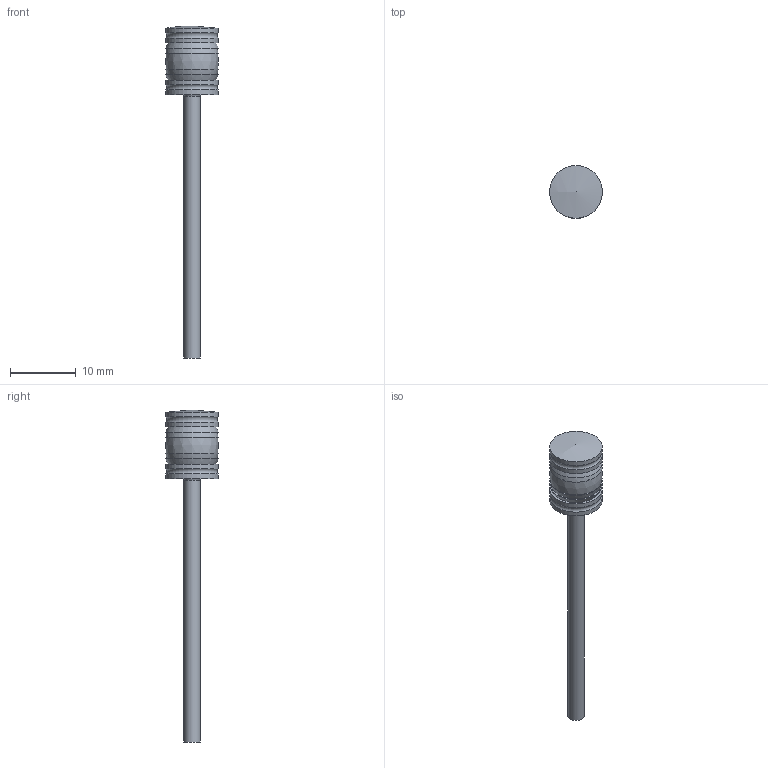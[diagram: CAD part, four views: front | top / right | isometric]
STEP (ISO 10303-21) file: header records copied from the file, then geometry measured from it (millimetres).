
FILE_DESCRIPTION(/* description */ ('','CAx-IF Rec.Pracs.---Representation and Presentation of Product Manufacturing Information (PMI)---4.0---2014-10-13'),/* implementation_level */ '2;1');
FILE_NAME(/* name */ '20sbootsternlight.step',/* time_stamp */ '2025-03-09T19:00:08+11:00',/* author */ (''),/* organization */ (''),/* preprocessor_version */ 'ST-DEVELOPER v20',/* originating_system */ 'Autodesk Translation Framework v13.20.0.188',/* authorisation */ '');
FILE_SCHEMA (('AP242_MANAGED_MODEL_BASED_3D_ENGINEERING_MIM_LF { 1 0 10303 442 1 1 4 }'));
Length unit declared in the file: millimetre
Products named in the file (1): Nebelbojesmall
Bounding box: 8 x 8 x 50.4 mm (x, y, z)
Volume: 691.5 mm3; surface area: 709.2 mm2
Topology: 1 solids, 1 shells, 22 faces, 42 edges, 28 vertices
Faces by surface type: plane 8, cylinder 5, bspline 5, torus 3, sphere 1
Full cylindrical faces by diameter (mm): 2.5 x1, 8 x4
Entity records: 720 total; most frequent: CARTESIAN_POINT 222, DIRECTION 113, ORIENTED_EDGE 82, AXIS2_PLACEMENT_3D 54, EDGE_CURVE 41, CIRCLE 36, EDGE_LOOP 29, VERTEX_POINT 28
